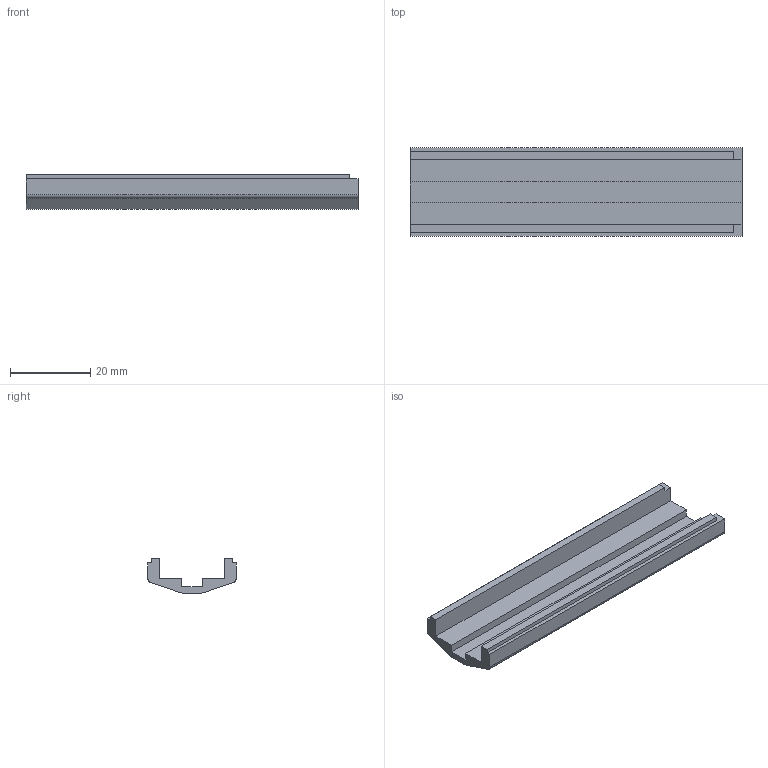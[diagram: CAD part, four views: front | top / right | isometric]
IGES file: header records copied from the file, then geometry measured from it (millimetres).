
Start section:  PTC IGES file: kansi.igs
Global section: file name: kansi.igs; native system: Pro/ENGINEER by Parametric Technology Corporation; preprocessor: 2004360; author: juha.telimaa; organization: Unknown; date: 060214.163758; units: millimetre
Bounding box: 82.7 x 22 x 8.55 mm (x, y, z)
Volume: 5887.7 mm3; surface area: 5913.3 mm2
Topology: 1 solids, 1 shells, 26 faces, 72 edges, 48 vertices
Faces by surface type: bspline 22, revolution 4
